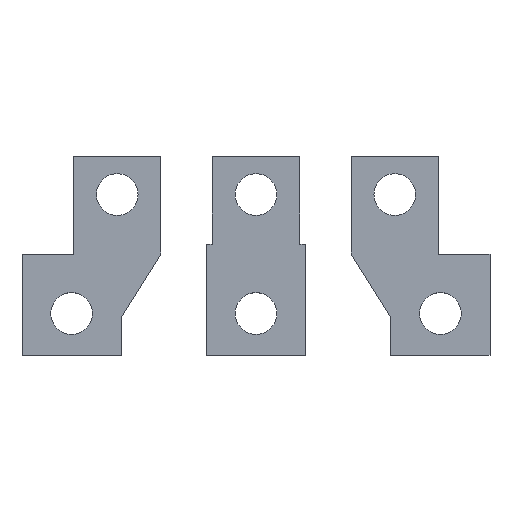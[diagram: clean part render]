
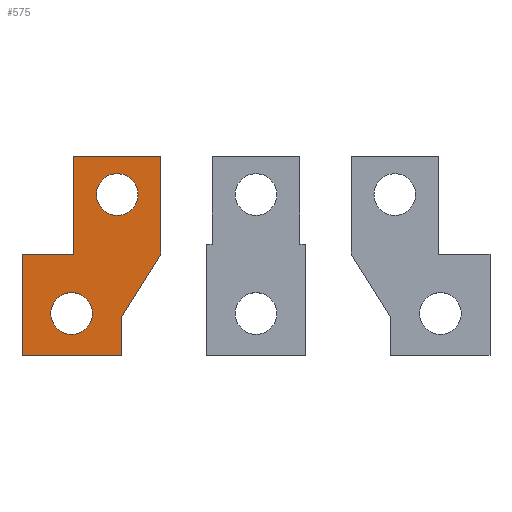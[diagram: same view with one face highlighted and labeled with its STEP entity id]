
A CAD part, top view. The second image highlights one B-rep face of the part: STEP entity #575.
In plain terms, the highlighted planar face has unit normal (0, 0, 1).
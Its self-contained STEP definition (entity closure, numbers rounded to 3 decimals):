
#20 = VERTEX_POINT ( 'NONE', #673 ) ;
#26 = AXIS2_PLACEMENT_3D ( 'NONE', #438, #516, #128 ) ;
#29 = LINE ( 'NONE', #206, #658 ) ;
#31 = AXIS2_PLACEMENT_3D ( 'NONE', #77, #623, #143 ) ;
#35 = VERTEX_POINT ( 'NONE', #989 ) ;
#42 = CARTESIAN_POINT ( 'NONE',  ( 11., 9.5, 0. ) ) ;
#49 = EDGE_CURVE ( 'NONE', #179, #407, #221, .T. ) ;
#77 = CARTESIAN_POINT ( 'NONE',  ( -11.5, -30., 0. ) ) ;
#80 = DIRECTION ( 'NONE',  ( 1., 0., 0. ) ) ;
#83 = VECTOR ( 'NONE', #707, 1000. ) ;
#89 = FACE_OUTER_BOUND ( 'NONE', #958, .T. ) ;
#128 = DIRECTION ( 'NONE',  ( 1., 0., 0. ) ) ;
#129 = EDGE_CURVE ( 'NONE', #407, #179, #757, .T. ) ;
#137 = VECTOR ( 'NONE', #794, 1000. ) ;
#143 = DIRECTION ( 'NONE',  ( 1., 0., 0. ) ) ;
#179 = VERTEX_POINT ( 'NONE', #392 ) ;
#194 = LINE ( 'NONE', #867, #83 ) ;
#196 = EDGE_LOOP ( 'NONE', ( #705, #597 ) ) ;
#197 = ORIENTED_EDGE ( 'NONE', *, *, #500, .T. ) ;
#201 = DIRECTION ( 'NONE',  ( 0.53, 0.848, 0. ) ) ;
#206 = CARTESIAN_POINT ( 'NONE',  ( 11., -15., 0. ) ) ;
#210 = ORIENTED_EDGE ( 'NONE', *, *, #514, .T. ) ;
#214 = LINE ( 'NONE', #893, #807 ) ;
#219 = LINE ( 'NONE', #791, #638 ) ;
#221 = CIRCLE ( 'NONE', #830, 5.25 ) ;
#225 = EDGE_CURVE ( 'NONE', #400, #541, #194, .T. ) ;
#246 = EDGE_CURVE ( 'NONE', #35, #756, #219, .T. ) ;
#272 = CARTESIAN_POINT ( 'NONE',  ( -24., -15., 0. ) ) ;
#278 = CARTESIAN_POINT ( 'NONE',  ( -5.25, 0., 0. ) ) ;
#303 = CARTESIAN_POINT ( 'NONE',  ( -11.5, -30., 0. ) ) ;
#304 = VECTOR ( 'NONE', #696, 1000. ) ;
#307 = CARTESIAN_POINT ( 'NONE',  ( 1., -40.5, 0. ) ) ;
#318 = CIRCLE ( 'NONE', #894, 5.25 ) ;
#351 = DIRECTION ( 'NONE',  ( 0., 1., 0. ) ) ;
#355 = DIRECTION ( 'NONE',  ( -1., 0., 0. ) ) ;
#359 = VERTEX_POINT ( 'NONE', #650 ) ;
#390 = ORIENTED_EDGE ( 'NONE', *, *, #444, .T. ) ;
#392 = CARTESIAN_POINT ( 'NONE',  ( -16.75, -30., 0. ) ) ;
#400 = VERTEX_POINT ( 'NONE', #272 ) ;
#406 = CARTESIAN_POINT ( 'NONE',  ( -6.25, -30., 0. ) ) ;
#407 = VERTEX_POINT ( 'NONE', #406 ) ;
#419 = CIRCLE ( 'NONE', #710, 5.25 ) ;
#429 = ORIENTED_EDGE ( 'NONE', *, *, #246, .T. ) ;
#432 = CARTESIAN_POINT ( 'NONE',  ( 1., -40.5, 0. ) ) ;
#438 = CARTESIAN_POINT ( 'NONE',  ( -11., -40.5, 0. ) ) ;
#443 = CARTESIAN_POINT ( 'NONE',  ( -24., -40.5, 0. ) ) ;
#444 = EDGE_CURVE ( 'NONE', #359, #20, #911, .T. ) ;
#453 = EDGE_CURVE ( 'NONE', #531, #359, #29, .T. ) ;
#468 = CARTESIAN_POINT ( 'NONE',  ( 0., 0., 0. ) ) ;
#473 = VERTEX_POINT ( 'NONE', #278 ) ;
#478 = LINE ( 'NONE', #724, #137 ) ;
#480 = FACE_BOUND ( 'NONE', #606, .T. ) ;
#500 = EDGE_CURVE ( 'NONE', #20, #35, #829, .T. ) ;
#508 = ORIENTED_EDGE ( 'NONE', *, *, #49, .F. ) ;
#514 = EDGE_CURVE ( 'NONE', #756, #400, #214, .T. ) ;
#516 = DIRECTION ( 'NONE',  ( 0., 0., 1. ) ) ;
#519 = EDGE_CURVE ( 'NONE', #473, #983, #419, .T. ) ;
#531 = VERTEX_POINT ( 'NONE', #896 ) ;
#541 = VERTEX_POINT ( 'NONE', #443 ) ;
#569 = ORIENTED_EDGE ( 'NONE', *, *, #129, .F. ) ;
#575 = ADVANCED_FACE ( 'NONE', ( #89, #480, #618 ), #588, .T. ) ;
#585 = VERTEX_POINT ( 'NONE', #432 ) ;
#588 = PLANE ( 'NONE',  #26 ) ;
#597 = ORIENTED_EDGE ( 'NONE', *, *, #519, .F. ) ;
#606 = EDGE_LOOP ( 'NONE', ( #569, #508 ) ) ;
#609 = ORIENTED_EDGE ( 'NONE', *, *, #225, .T. ) ;
#618 = FACE_BOUND ( 'NONE', #196, .T. ) ;
#623 = DIRECTION ( 'NONE',  ( 0., 0., 1. ) ) ;
#638 = VECTOR ( 'NONE', #778, 1000. ) ;
#650 = CARTESIAN_POINT ( 'NONE',  ( 11., -15., 0. ) ) ;
#658 = VECTOR ( 'NONE', #201, 1000. ) ;
#673 = CARTESIAN_POINT ( 'NONE',  ( 11., 9.5, 0. ) ) ;
#696 = DIRECTION ( 'NONE',  ( 0., 1., 0. ) ) ;
#705 = ORIENTED_EDGE ( 'NONE', *, *, #852, .F. ) ;
#707 = DIRECTION ( 'NONE',  ( 0., -1., 0. ) ) ;
#710 = AXIS2_PLACEMENT_3D ( 'NONE', #730, #817, #820 ) ;
#715 = CARTESIAN_POINT ( 'NONE',  ( 5.25, 0., 0. ) ) ;
#724 = CARTESIAN_POINT ( 'NONE',  ( -24., -40.5, 0. ) ) ;
#730 = CARTESIAN_POINT ( 'NONE',  ( 0., 0., 0. ) ) ;
#756 = VERTEX_POINT ( 'NONE', #1005 ) ;
#757 = CIRCLE ( 'NONE', #31, 5.25 ) ;
#761 = DIRECTION ( 'NONE',  ( 0., 0., 1. ) ) ;
#774 = ORIENTED_EDGE ( 'NONE', *, *, #992, .T. ) ;
#778 = DIRECTION ( 'NONE',  ( 0., -1., 0. ) ) ;
#780 = DIRECTION ( 'NONE',  ( 1., 0., 0. ) ) ;
#787 = DIRECTION ( 'NONE',  ( 0., 0., 1. ) ) ;
#791 = CARTESIAN_POINT ( 'NONE',  ( -11., 9.5, 0. ) ) ;
#794 = DIRECTION ( 'NONE',  ( 1., 0., 0. ) ) ;
#807 = VECTOR ( 'NONE', #355, 1000. ) ;
#811 = CARTESIAN_POINT ( 'NONE',  ( 11., 9.5, 0. ) ) ;
#817 = DIRECTION ( 'NONE',  ( 0., 0., 1. ) ) ;
#820 = DIRECTION ( 'NONE',  ( 1., 0., 0. ) ) ;
#829 = LINE ( 'NONE', #42, #941 ) ;
#830 = AXIS2_PLACEMENT_3D ( 'NONE', #303, #761, #80 ) ;
#852 = EDGE_CURVE ( 'NONE', #983, #473, #318, .T. ) ;
#867 = CARTESIAN_POINT ( 'NONE',  ( -24., -15., 0. ) ) ;
#893 = CARTESIAN_POINT ( 'NONE',  ( -11., -15., 0. ) ) ;
#894 = AXIS2_PLACEMENT_3D ( 'NONE', #468, #787, #780 ) ;
#896 = CARTESIAN_POINT ( 'NONE',  ( 1., -31., 0. ) ) ;
#904 = DIRECTION ( 'NONE',  ( -1., 0., 0. ) ) ;
#911 = LINE ( 'NONE', #811, #979 ) ;
#941 = VECTOR ( 'NONE', #904, 1000. ) ;
#950 = LINE ( 'NONE', #307, #304 ) ;
#958 = EDGE_LOOP ( 'NONE', ( #429, #210, #609, #774, #985, #969, #390, #197 ) ) ;
#969 = ORIENTED_EDGE ( 'NONE', *, *, #453, .T. ) ;
#979 = VECTOR ( 'NONE', #351, 1000. ) ;
#980 = EDGE_CURVE ( 'NONE', #585, #531, #950, .T. ) ;
#983 = VERTEX_POINT ( 'NONE', #715 ) ;
#985 = ORIENTED_EDGE ( 'NONE', *, *, #980, .T. ) ;
#989 = CARTESIAN_POINT ( 'NONE',  ( -11., 9.5, 0. ) ) ;
#992 = EDGE_CURVE ( 'NONE', #541, #585, #478, .T. ) ;
#1005 = CARTESIAN_POINT ( 'NONE',  ( -11., -15., 0. ) ) ;
